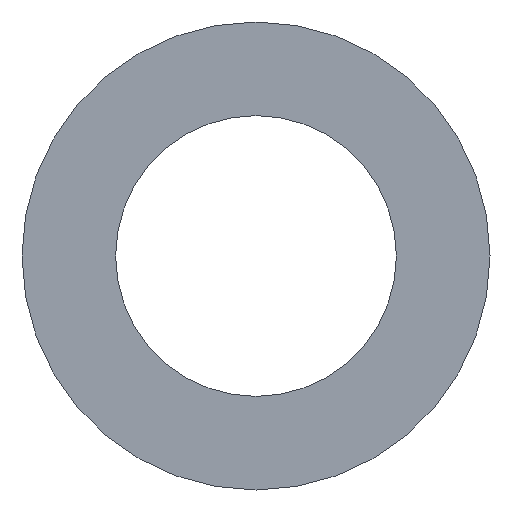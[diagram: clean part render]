
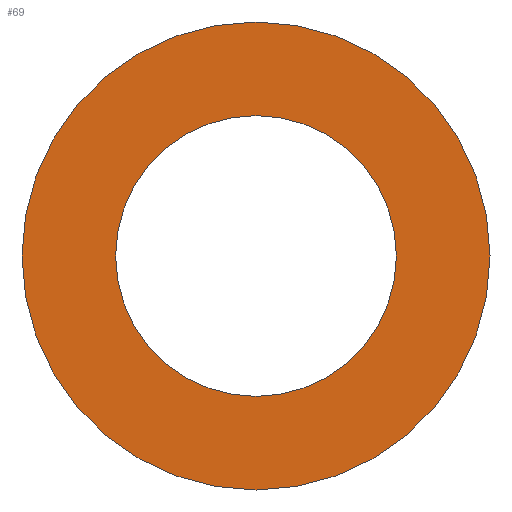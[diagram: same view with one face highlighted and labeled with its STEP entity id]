
A CAD part, front view. The second image highlights one B-rep face of the part: STEP entity #69.
In plain terms, the highlighted planar face has unit normal (0, -1, 0).
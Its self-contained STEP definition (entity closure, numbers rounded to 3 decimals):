
#4 = FACE_BOUND ( 'NONE', #68, .T. ) ;
#8 = DIRECTION ( 'NONE',  ( 0., 0., 1. ) ) ;
#12 = CARTESIAN_POINT ( 'NONE',  ( 0., 0., 0. ) ) ;
#13 = DIRECTION ( 'NONE',  ( 0., 1., 0. ) ) ;
#18 = EDGE_CURVE ( 'NONE', #54, #54, #113, .T. ) ;
#20 = DIRECTION ( 'NONE',  ( 0., 1., 0. ) ) ;
#29 = CIRCLE ( 'NONE', #41, 3. ) ;
#33 = DIRECTION ( 'NONE',  ( 0., 0., 1. ) ) ;
#34 = EDGE_CURVE ( 'NONE', #59, #59, #29, .T. ) ;
#40 = EDGE_LOOP ( 'NONE', ( #97 ) ) ;
#41 = AXIS2_PLACEMENT_3D ( 'NONE', #89, #13, #33 ) ;
#54 = VERTEX_POINT ( 'NONE', #70 ) ;
#55 = CARTESIAN_POINT ( 'NONE',  ( 0., 0., 0. ) ) ;
#59 = VERTEX_POINT ( 'NONE', #81 ) ;
#62 = ORIENTED_EDGE ( 'NONE', *, *, #34, .T. ) ;
#68 = EDGE_LOOP ( 'NONE', ( #62 ) ) ;
#69 = ADVANCED_FACE ( 'NONE', ( #116, #4 ), #100, .F. ) ;
#70 = CARTESIAN_POINT ( 'NONE',  ( 0., 0., 5. ) ) ;
#80 = AXIS2_PLACEMENT_3D ( 'NONE', #12, #20, #8 ) ;
#81 = CARTESIAN_POINT ( 'NONE',  ( 0., 0., 3. ) ) ;
#86 = DIRECTION ( 'NONE',  ( 0., 1., 0. ) ) ;
#89 = CARTESIAN_POINT ( 'NONE',  ( 0., 0., 0. ) ) ;
#91 = DIRECTION ( 'NONE',  ( 0., 0., 1. ) ) ;
#97 = ORIENTED_EDGE ( 'NONE', *, *, #18, .F. ) ;
#100 = PLANE ( 'NONE',  #105 ) ;
#105 = AXIS2_PLACEMENT_3D ( 'NONE', #55, #86, #91 ) ;
#113 = CIRCLE ( 'NONE', #80, 5. ) ;
#116 = FACE_OUTER_BOUND ( 'NONE', #40, .T. ) ;
